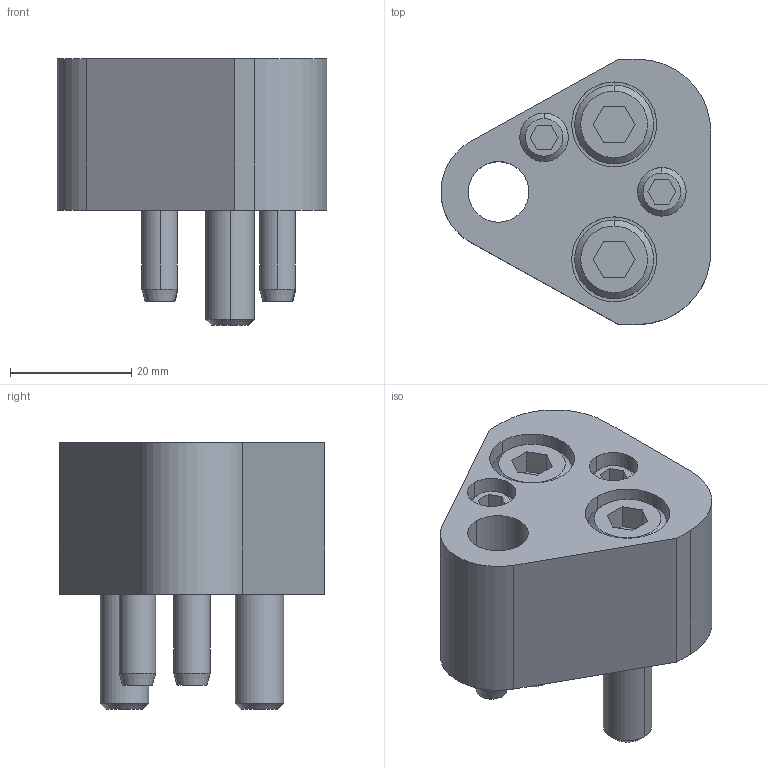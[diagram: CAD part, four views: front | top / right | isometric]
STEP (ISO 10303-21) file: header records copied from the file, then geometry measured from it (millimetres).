
FILE_DESCRIPTION(/* description */ (''),/* implementation_level */ '2;1');
FILE_NAME(/* name */ '3d_25crnar10_03132_r00.stp',/* time_stamp */ '2011-01-10T14:17:52+09:00',/* author */ ('MISUMI'),/* organization */ (''),/* preprocessor_version */ 'ST-DEVELOPER v11',/* originating_system */ 'UGS - NX 5.0',/* authorisation */ '');
FILE_SCHEMA (('CONFIG_CONTROL_DESIGN'));
Length unit declared in the file: millimetre
Products named in the file (1): 3d_25crnar10_03132_r00
Bounding box: 44.47 x 43.7 x 44 mm (x, y, z)
Volume: 33190.9 mm3; surface area: 14535.4 mm2
Topology: 7 solids, 7 shells, 135 faces, 294 edges, 188 vertices
Faces by surface type: plane 60, cylinder 49, cone 26
Entity records: 3836 total; most frequent: DIRECTION 684, CARTESIAN_POINT 672, ORIENTED_EDGE 588, EDGE_CURVE 294, AXIS2_PLACEMENT_3D 260, VERTEX_POINT 188, LINE 164, VECTOR 164
